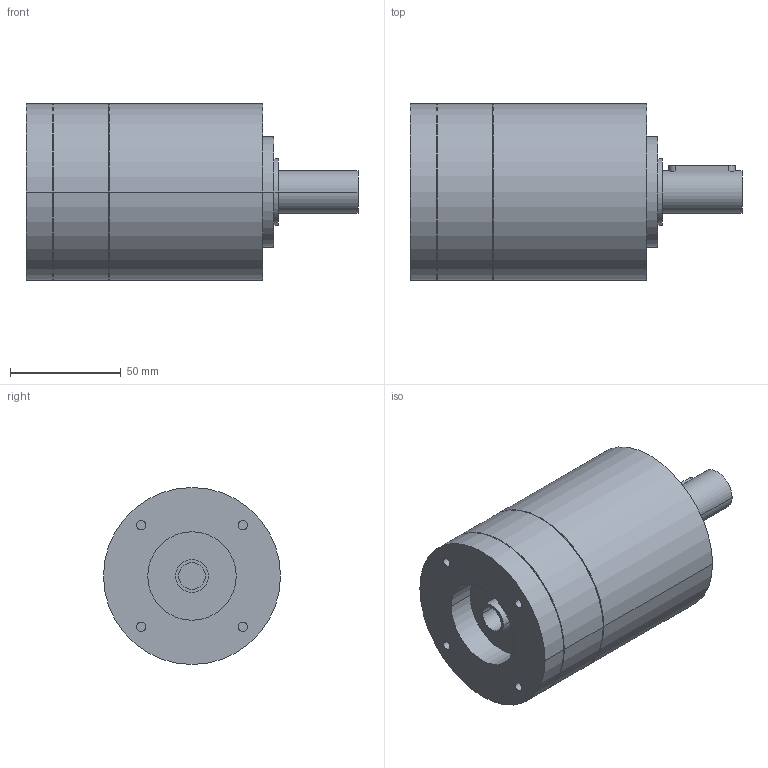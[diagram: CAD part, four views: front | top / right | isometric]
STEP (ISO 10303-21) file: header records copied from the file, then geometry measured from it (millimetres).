
FILE_DESCRIPTION(('CoCreate Modeling STEP Export'),'2;1');
FILE_NAME('GPR100_ig-3-4-5-6_19_B14_12.7_P26.stp','2014-08-26T10:06:35',(''),(''),'CoCreate Modeling STEP processor for AP214 (Solid Model)','CoCreate Modeling 16.00C 25-Feb-2009 (C) Parametric Technology GmbH','');
FILE_SCHEMA(('AUTOMOTIVE_DESIGN { 1 0 10303 214 1 1 1 1 }'));
Length unit declared in the file: millimetre
Products named in the file (2): GPR100_ig-3-4-5-6_19_B14_12.7_P26
Assembly tree (1 placements, depth 2):
  GPR100_ig-3-4-5-6_19_B14_12.7_P26
    GPR100_ig-3-4-5-6_19_B14_12.7_P26
Bounding box: 150 x 80 x 80 mm (x, y, z)
Volume: 540407.4 mm3; surface area: 45261.7 mm2
Topology: 1 solids, 1 shells, 65 faces, 155 edges, 107 vertices
Faces by surface type: cylinder 38, plane 21, cone 6
Entity records: 1621 total; most frequent: ORIENTED_EDGE 306, CARTESIAN_POINT 303, DIRECTION 214, EDGE_CURVE 153, VERTEX_POINT 107, AXIS2_PLACEMENT_3D 82, EDGE_LOOP 82, FACE_OUTER_BOUND 65
